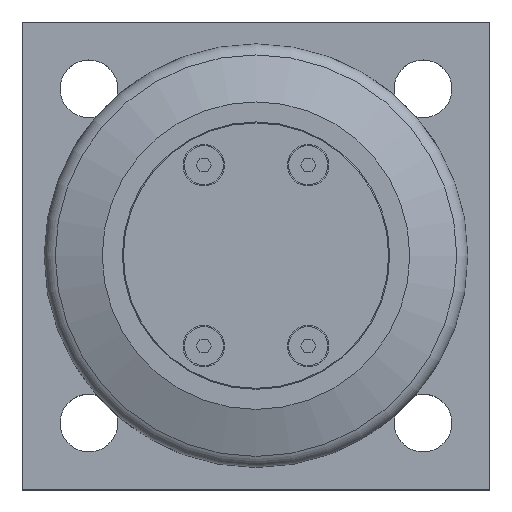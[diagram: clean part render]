
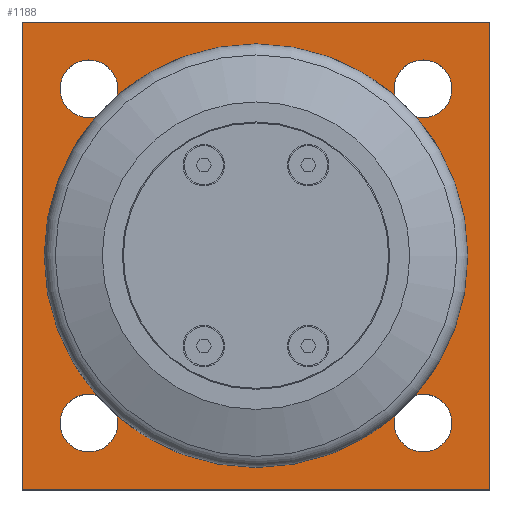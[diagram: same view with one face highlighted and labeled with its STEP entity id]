
A CAD part, top view. The second image highlights one B-rep face of the part: STEP entity #1188.
In plain terms, the highlighted planar face has unit normal (0, 0, 1).
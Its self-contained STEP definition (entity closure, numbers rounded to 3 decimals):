
#37=FACE_BOUND('',#262,.T.);
#38=FACE_BOUND('',#263,.T.);
#39=FACE_BOUND('',#264,.T.);
#40=FACE_BOUND('',#265,.T.);
#41=FACE_BOUND('',#266,.T.);
#92=CIRCLE('',#1321,39.5);
#93=CIRCLE('',#1323,8.647);
#94=CIRCLE('',#1324,8.647);
#95=CIRCLE('',#1325,8.647);
#96=CIRCLE('',#1326,8.647);
#97=CIRCLE('',#1327,8.647);
#98=CIRCLE('',#1328,8.647);
#99=CIRCLE('',#1329,8.647);
#100=CIRCLE('',#1330,8.647);
#178=FACE_OUTER_BOUND('',#261,.T.);
#261=EDGE_LOOP('',(#1027,#1028,#1029,#1030));
#262=EDGE_LOOP('',(#1031,#1032));
#263=EDGE_LOOP('',(#1033,#1034));
#264=EDGE_LOOP('',(#1035,#1036));
#265=EDGE_LOOP('',(#1037,#1038));
#266=EDGE_LOOP('',(#1039));
#367=LINE('',#2015,#470);
#368=LINE('',#2017,#471);
#369=LINE('',#2019,#472);
#370=LINE('',#2020,#473);
#470=VECTOR('',#1643,10.);
#471=VECTOR('',#1644,10.);
#472=VECTOR('',#1645,10.);
#473=VECTOR('',#1646,10.);
#577=VERTEX_POINT('',#2009);
#578=VERTEX_POINT('',#2013);
#579=VERTEX_POINT('',#2014);
#580=VERTEX_POINT('',#2016);
#581=VERTEX_POINT('',#2018);
#582=VERTEX_POINT('',#2021);
#583=VERTEX_POINT('',#2022);
#584=VERTEX_POINT('',#2025);
#585=VERTEX_POINT('',#2026);
#586=VERTEX_POINT('',#2029);
#587=VERTEX_POINT('',#2030);
#588=VERTEX_POINT('',#2033);
#589=VERTEX_POINT('',#2034);
#731=EDGE_CURVE('',#577,#577,#92,.T.);
#732=EDGE_CURVE('',#578,#579,#367,.T.);
#733=EDGE_CURVE('',#580,#578,#368,.T.);
#734=EDGE_CURVE('',#581,#580,#369,.T.);
#735=EDGE_CURVE('',#579,#581,#370,.T.);
#736=EDGE_CURVE('',#582,#583,#93,.T.);
#737=EDGE_CURVE('',#583,#582,#94,.T.);
#738=EDGE_CURVE('',#584,#585,#95,.T.);
#739=EDGE_CURVE('',#585,#584,#96,.T.);
#740=EDGE_CURVE('',#586,#587,#97,.T.);
#741=EDGE_CURVE('',#587,#586,#98,.T.);
#742=EDGE_CURVE('',#588,#589,#99,.T.);
#743=EDGE_CURVE('',#589,#588,#100,.T.);
#1027=ORIENTED_EDGE('',*,*,#732,.F.);
#1028=ORIENTED_EDGE('',*,*,#733,.F.);
#1029=ORIENTED_EDGE('',*,*,#734,.F.);
#1030=ORIENTED_EDGE('',*,*,#735,.F.);
#1031=ORIENTED_EDGE('',*,*,#736,.T.);
#1032=ORIENTED_EDGE('',*,*,#737,.T.);
#1033=ORIENTED_EDGE('',*,*,#738,.T.);
#1034=ORIENTED_EDGE('',*,*,#739,.T.);
#1035=ORIENTED_EDGE('',*,*,#740,.T.);
#1036=ORIENTED_EDGE('',*,*,#741,.T.);
#1037=ORIENTED_EDGE('',*,*,#742,.T.);
#1038=ORIENTED_EDGE('',*,*,#743,.T.);
#1039=ORIENTED_EDGE('',*,*,#731,.T.);
#1124=PLANE('',#1322);
#1188=ADVANCED_FACE('',(#178,#37,#38,#39,#40,#41),#1124,.T.);
#1321=AXIS2_PLACEMENT_3D('',#2011,#1639,#1640);
#1322=AXIS2_PLACEMENT_3D('',#2012,#1641,#1642);
#1323=AXIS2_PLACEMENT_3D('',#2023,#1647,#1648);
#1324=AXIS2_PLACEMENT_3D('',#2024,#1649,#1650);
#1325=AXIS2_PLACEMENT_3D('',#2027,#1651,#1652);
#1326=AXIS2_PLACEMENT_3D('',#2028,#1653,#1654);
#1327=AXIS2_PLACEMENT_3D('',#2031,#1655,#1656);
#1328=AXIS2_PLACEMENT_3D('',#2032,#1657,#1658);
#1329=AXIS2_PLACEMENT_3D('',#2035,#1659,#1660);
#1330=AXIS2_PLACEMENT_3D('',#2036,#1661,#1662);
#1639=DIRECTION('center_axis',(0.,0.,-1.));
#1640=DIRECTION('ref_axis',(0.,1.,0.));
#1641=DIRECTION('center_axis',(0.,0.,1.));
#1642=DIRECTION('ref_axis',(1.,0.,0.));
#1643=DIRECTION('',(0.,1.,0.));
#1644=DIRECTION('',(-1.,0.,0.));
#1645=DIRECTION('',(0.,-1.,0.));
#1646=DIRECTION('',(1.,0.,0.));
#1647=DIRECTION('center_axis',(0.,0.,-1.));
#1648=DIRECTION('ref_axis',(1.,0.,0.));
#1649=DIRECTION('center_axis',(0.,0.,-1.));
#1650=DIRECTION('ref_axis',(1.,0.,0.));
#1651=DIRECTION('center_axis',(0.,0.,-1.));
#1652=DIRECTION('ref_axis',(1.,0.,0.));
#1653=DIRECTION('center_axis',(0.,0.,-1.));
#1654=DIRECTION('ref_axis',(1.,0.,0.));
#1655=DIRECTION('center_axis',(0.,0.,-1.));
#1656=DIRECTION('ref_axis',(1.,0.,0.));
#1657=DIRECTION('center_axis',(0.,0.,-1.));
#1658=DIRECTION('ref_axis',(1.,0.,0.));
#1659=DIRECTION('center_axis',(0.,0.,-1.));
#1660=DIRECTION('ref_axis',(1.,0.,0.));
#1661=DIRECTION('center_axis',(0.,0.,-1.));
#1662=DIRECTION('ref_axis',(1.,0.,0.));
#2009=CARTESIAN_POINT('',(70.,30.5,20.));
#2011=CARTESIAN_POINT('Origin',(70.,70.,20.));
#2012=CARTESIAN_POINT('Origin',(70.,70.,20.));
#2013=CARTESIAN_POINT('',(0.,0.,20.));
#2014=CARTESIAN_POINT('',(0.,140.,20.));
#2015=CARTESIAN_POINT('',(0.,140.,20.));
#2016=CARTESIAN_POINT('',(140.,0.,20.));
#2017=CARTESIAN_POINT('',(0.,0.,20.));
#2018=CARTESIAN_POINT('',(140.,140.,20.));
#2019=CARTESIAN_POINT('',(140.,0.,20.));
#2020=CARTESIAN_POINT('',(140.,140.,20.));
#2021=CARTESIAN_POINT('',(28.647,20.,20.));
#2022=CARTESIAN_POINT('',(11.353,20.,20.));
#2023=CARTESIAN_POINT('Origin',(20.,20.,20.));
#2024=CARTESIAN_POINT('Origin',(20.,20.,20.));
#2025=CARTESIAN_POINT('',(128.647,20.,20.));
#2026=CARTESIAN_POINT('',(111.353,20.,20.));
#2027=CARTESIAN_POINT('Origin',(120.,20.,20.));
#2028=CARTESIAN_POINT('Origin',(120.,20.,20.));
#2029=CARTESIAN_POINT('',(128.647,120.,20.));
#2030=CARTESIAN_POINT('',(111.353,120.,20.));
#2031=CARTESIAN_POINT('Origin',(120.,120.,20.));
#2032=CARTESIAN_POINT('Origin',(120.,120.,20.));
#2033=CARTESIAN_POINT('',(28.647,120.,20.));
#2034=CARTESIAN_POINT('',(11.353,120.,20.));
#2035=CARTESIAN_POINT('Origin',(20.,120.,20.));
#2036=CARTESIAN_POINT('Origin',(20.,120.,20.));
